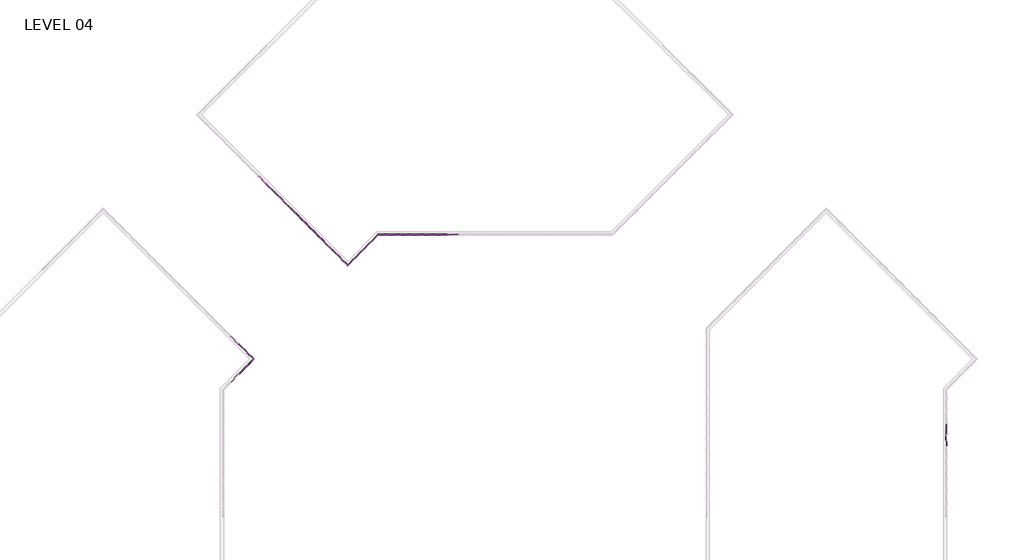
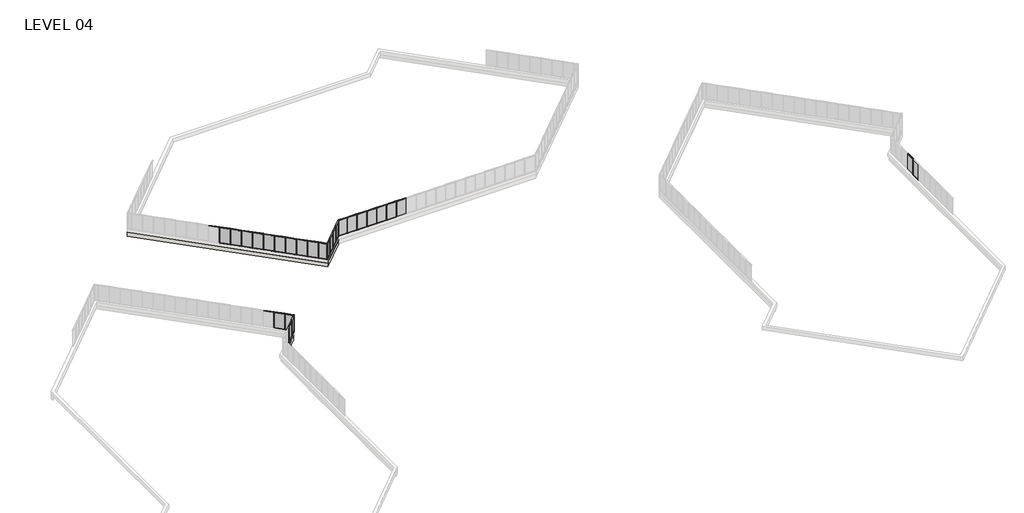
# One storey, part 12 of 17: 84 members, 27 plates, 3 walls.
"""IFC4 building model written with IfcOpenShell, lengths in millimetres."""

from ifc_helpers import new_model, si_unit, frame, origin, place, context, project, spatial, polyline, outline, extrude, faceted_brep, transform, mapped, element, save
from components import member_5247f267, member_e44af9ab, member_800970d4, member_45eb7f2e, member_910c08c9, member_dd9f6d43, plate_67294edd, plate_9c66726c, plate_88df3e37, plate_c3b8b83d, plate_129ab9d0, plate_6ecefdb5

model = new_model("IFC4")

# Units and contexts
model_context = context("Model", 3, world=origin())
ifc_project = project(units=[si_unit("LENGTHUNIT", "METRE", prefix="MILLI")], contexts=[model_context])

# Site, building, storey
site = spatial("IfcSite", under=ifc_project)
building = spatial("IfcBuilding", under=site)
storey = spatial("IfcBuildingStorey", under=building, Name="LEVEL 04", Elevation=12052.3)

# Members
placement = place(None, origin())
member_shape = member_5247f267(model_context)
element("IfcMember", 1, ObjectType="Rectangular Mullion : 2\" x 4.5\" rectangular", at=placement, inside=storey, context=model_context, shape_type="MappedRepresentation", body=[
    mapped(member_shape, transform((6200.5095063, 93365.536663, 12052.3), x_axis=(0.0, 0.0, -1.0), y_axis=(-0.7071067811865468, -0.7071067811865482, 0.0), z_axis=(-0.7071067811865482, 0.7071067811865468, 0.0))),
])
element("IfcMember", 2, ObjectType="Rectangular Mullion : 2\" x 4.5\" rectangular", at=placement, inside=storey, context=model_context, shape_type="MappedRepresentation", body=[
    mapped(member_shape, transform((7278.1402408, 92287.9059285, 12052.3), x_axis=(0.0, 0.0, -1.0), y_axis=(-0.7071067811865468, -0.7071067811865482, 0.0), z_axis=(-0.7071067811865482, 0.7071067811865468, 0.0))),
])
element("IfcMember", 3, ObjectType="Rectangular Mullion : 2\" x 4.5\" rectangular", at=placement, inside=storey, context=model_context, shape_type="MappedRepresentation", body=[
    mapped(member_shape, transform((8355.7709754, 91210.2751939, 12052.3), x_axis=(0.0, 0.0, -1.0), y_axis=(-0.7071067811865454, -0.7071067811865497, 0.0), z_axis=(-0.7071067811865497, 0.7071067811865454, 0.0))),
])
element("IfcMember", 4, ObjectType="Rectangular Mullion : 2\" x 4.5\" rectangular", at=placement, inside=storey, context=model_context, shape_type="MappedRepresentation", body=[
    mapped(member_shape, transform((9433.4017099, 90132.6444594, 12052.3), x_axis=(0.0, 0.0, -1.0), y_axis=(-0.7071067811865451, -0.7071067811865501, 0.0), z_axis=(-0.7071067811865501, 0.7071067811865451, 0.0))),
])
element("IfcMember", 5, ObjectType="Rectangular Mullion : 2\" x 4.5\" rectangular", at=placement, inside=storey, context=model_context, shape_type="MappedRepresentation", body=[
    mapped(member_shape, transform((10511.0324444, 89055.0137249, 12052.3), x_axis=(0.0, 0.0, -1.0), y_axis=(-0.7071067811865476, -0.7071067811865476, 0.0), z_axis=(-0.7071067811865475, 0.7071067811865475, 0.0))),
])
element("IfcMember", 6, ObjectType="Rectangular Mullion : 2\" x 4.5\" rectangular", at=placement, inside=storey, context=model_context, shape_type="MappedRepresentation", body=[
    mapped(member_shape, transform((11588.663179, 87977.3829903, 12052.3), x_axis=(0.0, 0.0, -1.0), y_axis=(-0.7071067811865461, -0.707106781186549, 0.0), z_axis=(-0.707106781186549, 0.7071067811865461, 0.0))),
])
element("IfcMember", 7, ObjectType="Rectangular Mullion : 2\" x 4.5\" rectangular", at=placement, inside=storey, context=model_context, shape_type="MappedRepresentation", body=[
    mapped(member_shape, transform((12666.2939135, 86899.7522558, 12052.3), x_axis=(0.0, 0.0, -1.0), y_axis=(-0.7071067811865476, -0.7071067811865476, 0.0), z_axis=(-0.7071067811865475, 0.7071067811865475, 0.0))),
])
element("IfcMember", 8, ObjectType="Rectangular Mullion : 2\" x 4.5\" rectangular", at=placement, inside=storey, context=model_context, shape_type="MappedRepresentation", body=[
    mapped(member_shape, transform((15463.8924855, 85858.0386548, 12052.3), x_axis=(0.0, 0.0, -1.0), y_axis=(0.7071067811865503, -0.7071067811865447, 0.0), z_axis=(-0.7071067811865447, -0.7071067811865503, 0.0))),
])
element("IfcMember", 9, ObjectType="Rectangular Mullion : 2\" x 4.5\" rectangular", at=placement, inside=storey, context=model_context, shape_type="MappedRepresentation", body=[
    mapped(member_shape, transform((16541.5232201, 86935.6693894, 12052.3), x_axis=(0.0, 0.0, -1.0), y_axis=(0.7071067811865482, -0.7071067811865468, 0.0), z_axis=(-0.7071067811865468, -0.7071067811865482, 0.0))),
])
element("IfcMember", 10, ObjectType="Rectangular Mullion : 2\" x 4.5\" rectangular", at=placement, inside=storey, context=model_context, shape_type="MappedRepresentation", body=[
    mapped(member_shape, transform((27514.55, 88955.8023049, 12052.3), x_axis=(0.0, 0.0, -1.0), y_axis=(0.0, 1.0, 0.0), z_axis=(1.0, 0.0, 0.0))),
])
element("IfcMember", 11, ObjectType="Rectangular Mullion : 2\" x 4.5\" rectangular", at=placement, inside=storey, context=model_context, shape_type="MappedRepresentation", body=[
    mapped(member_shape, transform((24466.55, 88955.8023049, 12052.3), x_axis=(0.0, 0.0, -1.0), y_axis=(0.0, 1.0, 0.0), z_axis=(1.0, 0.0, 0.0))),
])
element("IfcMember", 12, ObjectType="Rectangular Mullion : 2\" x 4.5\" rectangular", at=placement, inside=storey, context=model_context, shape_type="MappedRepresentation", body=[
    mapped(member_shape, transform((22942.55, 88955.8023049, 12052.3), x_axis=(0.0, 0.0, -1.0), y_axis=(0.0, 1.0, 0.0), z_axis=(1.0, 0.0, 0.0))),
])
element("IfcMember", 13, ObjectType="Rectangular Mullion : 2\" x 4.5\" rectangular", at=placement, inside=storey, context=model_context, shape_type="MappedRepresentation", body=[
    mapped(member_shape, transform((21418.55, 88955.8023049, 12052.3), x_axis=(0.0, 0.0, -1.0), y_axis=(0.0, 1.0, 0.0), z_axis=(1.0, 0.0, 0.0))),
])
element("IfcMember", 14, ObjectType="Rectangular Mullion : 2\" x 4.5\" rectangular", at=placement, inside=storey, context=model_context, shape_type="MappedRepresentation", body=[
    mapped(member_shape, transform((25990.55, 88955.8023049, 12052.3), x_axis=(0.0, 0.0, -1.0), y_axis=(0.0, 1.0, 0.0), z_axis=(1.0, 0.0, 0.0))),
])
element("IfcMember", 15, ObjectType="Rectangular Mullion : 2\" x 4.5\" rectangular", at=placement, inside=storey, context=model_context, shape_type="MappedRepresentation", body=[
    mapped(member_shape, transform((4009.6843581, 95556.3618112, 14643.1), x_axis=(0.0, 0.0, 1.0), y_axis=(-0.7071067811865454, -0.7071067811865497, 0.0), z_axis=(0.7071067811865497, -0.7071067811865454, 0.0))),
])
element("IfcMember", 16, ObjectType="Rectangular Mullion : 2\" x 4.5\" rectangular", at=placement, inside=storey, context=model_context, shape_type="MappedRepresentation", body=[
    mapped(member_shape, transform((7242.2192164, 92323.8269529, 14643.1), x_axis=(0.0, 0.0, 1.0), y_axis=(-0.7071067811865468, -0.7071067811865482, 0.0), z_axis=(0.7071067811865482, -0.7071067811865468, 0.0))),
])
element("IfcMember", 17, ObjectType="Rectangular Mullion : 2\" x 4.5\" rectangular", at=placement, inside=storey, context=model_context, shape_type="MappedRepresentation", body=[
    mapped(member_shape, transform((8319.8499509, 91246.1962184, 14643.1), x_axis=(0.0, 0.0, 1.0), y_axis=(-0.7071067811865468, -0.7071067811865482, 0.0), z_axis=(0.7071067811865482, -0.7071067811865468, 0.0))),
])
element("IfcMember", 18, ObjectType="Rectangular Mullion : 2\" x 4.5\" rectangular", at=placement, inside=storey, context=model_context, shape_type="MappedRepresentation", body=[
    mapped(member_shape, transform((9397.4806854, 90168.5654839, 14643.1), x_axis=(0.0, 0.0, 1.0), y_axis=(-0.7071067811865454, -0.7071067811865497, 0.0), z_axis=(0.7071067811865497, -0.7071067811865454, 0.0))),
])
element("IfcMember", 19, ObjectType="Rectangular Mullion : 2\" x 4.5\" rectangular", at=placement, inside=storey, context=model_context, shape_type="MappedRepresentation", body=[
    mapped(member_shape, transform((10475.1114199, 89090.9347494, 14643.1), x_axis=(0.0, 0.0, 1.0), y_axis=(-0.7071067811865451, -0.7071067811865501, 0.0), z_axis=(0.7071067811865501, -0.7071067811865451, 0.0))),
])
element("IfcMember", 20, ObjectType="Rectangular Mullion : 2\" x 4.5\" rectangular", at=placement, inside=storey, context=model_context, shape_type="MappedRepresentation", body=[
    mapped(member_shape, transform((11552.7421545, 88013.3040148, 14643.1), x_axis=(0.0, 0.0, 1.0), y_axis=(-0.7071067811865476, -0.7071067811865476, 0.0), z_axis=(0.7071067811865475, -0.7071067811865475, 0.0))),
])
element("IfcMember", 21, ObjectType="Rectangular Mullion : 2\" x 4.5\" rectangular", at=placement, inside=storey, context=model_context, shape_type="MappedRepresentation", body=[
    mapped(member_shape, transform((12630.372889, 86935.6732803, 14643.1), x_axis=(0.0, 0.0, 1.0), y_axis=(-0.7071067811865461, -0.707106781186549, 0.0), z_axis=(0.707106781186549, -0.7071067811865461, 0.0))),
])
element("IfcMember", 22, ObjectType="Rectangular Mullion : 2\" x 4.5\" rectangular", at=placement, inside=storey, context=model_context, shape_type="MappedRepresentation", body=[
    mapped(member_shape, transform((13708.0036235, 85858.0425458, 14643.1), x_axis=(0.0, 0.0, 1.0), y_axis=(-0.7071067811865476, -0.7071067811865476, 0.0), z_axis=(0.7071067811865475, -0.7071067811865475, 0.0))),
])
element("IfcMember", 23, ObjectType="Rectangular Mullion : 2\" x 4.5\" rectangular", at=placement, inside=storey, context=model_context, shape_type="MappedRepresentation", body=[
    mapped(member_shape, transform((17583.2329301, 87977.3790994, 14643.1), x_axis=(0.0, 0.0, 1.0), y_axis=(0.7071067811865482, -0.7071067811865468, 0.0), z_axis=(0.7071067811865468, 0.7071067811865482, 0.0))),
])
element("IfcMember", 24, ObjectType="Rectangular Mullion : 2\" x 4.5\" rectangular", at=placement, inside=storey, context=model_context, shape_type="MappedRepresentation", body=[
    mapped(member_shape, transform((16505.6021956, 86899.7483649, 14643.1), x_axis=(0.0, 0.0, 1.0), y_axis=(0.7071067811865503, -0.7071067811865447, 0.0), z_axis=(0.7071067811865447, 0.7071067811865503, 0.0))),
])
element("IfcMember", 25, ObjectType="Rectangular Mullion : 2\" x 4.5\" rectangular", at=placement, inside=storey, context=model_context, shape_type="MappedRepresentation", body=[
    mapped(member_shape, transform((27565.35, 88955.8023049, 14643.1), x_axis=(0.0, 0.0, 1.0), y_axis=(0.0, 1.0, 0.0), z_axis=(-1.0, 0.0, 0.0))),
])
element("IfcMember", 26, ObjectType="Rectangular Mullion : 2\" x 4.5\" rectangular", at=placement, inside=storey, context=model_context, shape_type="MappedRepresentation", body=[
    mapped(member_shape, transform((24517.35, 88955.8023049, 14643.1), x_axis=(0.0, 0.0, 1.0), y_axis=(0.0, 1.0, 0.0), z_axis=(-1.0, 0.0, 0.0))),
])
element("IfcMember", 27, ObjectType="Rectangular Mullion : 2\" x 4.5\" rectangular", at=placement, inside=storey, context=model_context, shape_type="MappedRepresentation", body=[
    mapped(member_shape, transform((22993.35, 88955.8023049, 14643.1), x_axis=(0.0, 0.0, 1.0), y_axis=(0.0, 1.0, 0.0), z_axis=(-1.0, 0.0, 0.0))),
])
element("IfcMember", 28, ObjectType="Rectangular Mullion : 2\" x 4.5\" rectangular", at=placement, inside=storey, context=model_context, shape_type="MappedRepresentation", body=[
    mapped(member_shape, transform((21469.35, 88955.8023049, 14643.1), x_axis=(0.0, 0.0, 1.0), y_axis=(0.0, 1.0, 0.0), z_axis=(-1.0, 0.0, 0.0))),
])
element("IfcMember", 29, ObjectType="Rectangular Mullion : 2\" x 4.5\" rectangular", at=placement, inside=storey, context=model_context, shape_type="MappedRepresentation", body=[
    mapped(member_shape, transform((19945.35, 88955.8023049, 14643.1), x_axis=(0.0, 0.0, 1.0), y_axis=(0.0, 1.0, 0.0), z_axis=(-1.0, 0.0, 0.0))),
])
element("IfcMember", 30, ObjectType="Rectangular Mullion : 2\" x 4.5\" rectangular", at=placement, inside=storey, context=model_context, shape_type="MappedRepresentation", body=[
    mapped(member_shape, transform((26041.35, 88955.8023049, 14643.1), x_axis=(0.0, 0.0, 1.0), y_axis=(0.0, 1.0, 0.0), z_axis=(-1.0, 0.0, 0.0))),
])
member_2_shape = member_e44af9ab(model_context)
element("IfcMember", 31, ObjectType="Rectangular Mullion : 2\" x 4.5\" rectangular", at=placement, inside=storey, context=model_context, shape_type="MappedRepresentation", body=[
    mapped(member_2_shape, transform((4027.6448703, 95538.401299, 12052.3), x_axis=(0.7071067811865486, -0.7071067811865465, 0.0), y_axis=(-0.7071067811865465, -0.7071067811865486, 0.0), z_axis=(0.0, 0.0, -1.0))),
])
element("IfcMember", 32, ObjectType="Rectangular Mullion : 2\" x 4.5\" rectangular", at=placement, inside=storey, context=model_context, shape_type="MappedRepresentation", body=[
    mapped(member_2_shape, transform((6182.5489941, 93383.4971752, 12052.3), x_axis=(0.7071067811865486, -0.7071067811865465, 0.0), y_axis=(-0.7071067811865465, -0.7071067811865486, 0.0), z_axis=(0.0, 0.0, -1.0))),
])
element("IfcMember", 33, ObjectType="Rectangular Mullion : 2\" x 4.5\" rectangular", at=placement, inside=storey, context=model_context, shape_type="MappedRepresentation", body=[
    mapped(member_2_shape, transform((7260.1797286, 92305.8664407, 12052.3), x_axis=(0.7071067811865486, -0.7071067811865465, 0.0), y_axis=(-0.7071067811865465, -0.7071067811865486, 0.0), z_axis=(0.0, 0.0, -1.0))),
])
element("IfcMember", 34, ObjectType="Rectangular Mullion : 2\" x 4.5\" rectangular", at=placement, inside=storey, context=model_context, shape_type="MappedRepresentation", body=[
    mapped(member_2_shape, transform((8337.8104631, 91228.2357062, 12052.3), x_axis=(0.7071067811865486, -0.7071067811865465, 0.0), y_axis=(-0.7071067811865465, -0.7071067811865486, 0.0), z_axis=(0.0, 0.0, -1.0))),
])
element("IfcMember", 35, ObjectType="Rectangular Mullion : 2\" x 4.5\" rectangular", at=placement, inside=storey, context=model_context, shape_type="MappedRepresentation", body=[
    mapped(member_2_shape, transform((5105.0969322, 94460.9492371, 12052.3), x_axis=(0.7071067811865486, -0.7071067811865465, 0.0), y_axis=(-0.7071067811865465, -0.7071067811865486, 0.0), z_axis=(0.0, 0.0, -1.0))),
])
element("IfcMember", 36, ObjectType="Rectangular Mullion : 2\" x 4.5\" rectangular", at=placement, inside=storey, context=model_context, shape_type="MappedRepresentation", body=[
    mapped(member_2_shape, transform((9415.4411977, 90150.6049716, 12052.3), x_axis=(0.7071067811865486, -0.7071067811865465, 0.0), y_axis=(-0.7071067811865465, -0.7071067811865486, 0.0), z_axis=(0.0, 0.0, -1.0))),
])
element("IfcMember", 37, ObjectType="Rectangular Mullion : 2\" x 4.5\" rectangular", at=placement, inside=storey, context=model_context, shape_type="MappedRepresentation", body=[
    mapped(member_2_shape, transform((10493.0719322, 89072.9742371, 12052.3), x_axis=(0.7071067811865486, -0.7071067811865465, 0.0), y_axis=(-0.7071067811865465, -0.7071067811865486, 0.0), z_axis=(0.0, 0.0, -1.0))),
])
element("IfcMember", 38, ObjectType="Rectangular Mullion : 2\" x 4.5\" rectangular", at=placement, inside=storey, context=model_context, shape_type="MappedRepresentation", body=[
    mapped(member_2_shape, transform((11570.7026667, 87995.3435026, 12052.3), x_axis=(0.7071067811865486, -0.7071067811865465, 0.0), y_axis=(-0.7071067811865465, -0.7071067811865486, 0.0), z_axis=(0.0, 0.0, -1.0))),
])
element("IfcMember", 39, ObjectType="Rectangular Mullion : 2\" x 4.5\" rectangular", at=placement, inside=storey, context=model_context, shape_type="MappedRepresentation", body=[
    mapped(member_2_shape, transform((12648.3334012, 86917.7127681, 12052.3), x_axis=(0.7071067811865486, -0.7071067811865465, 0.0), y_axis=(-0.7071067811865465, -0.7071067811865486, 0.0), z_axis=(0.0, 0.0, -1.0))),
])
element("IfcMember", 40, ObjectType="Rectangular Mullion : 2\" x 4.5\" rectangular", at=placement, inside=storey, context=model_context, shape_type="MappedRepresentation", body=[
    mapped(member_2_shape, transform((13725.9641358, 85840.0820335, 12052.3), x_axis=(0.7071067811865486, -0.7071067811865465, 0.0), y_axis=(-0.7071067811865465, -0.7071067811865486, 0.0), z_axis=(0.0, 0.0, -1.0))),
])
element("IfcMember", 41, ObjectType="Rectangular Mullion : 2\" x 4.5\" rectangular", at=placement, inside=storey, context=model_context, shape_type="MappedRepresentation", body=[
    mapped(member_2_shape, transform((15445.9319733, 85840.0781426, 12052.3), x_axis=(0.7071067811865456, 0.7071067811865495, 0.0), y_axis=(0.7071067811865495, -0.7071067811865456, 0.0), z_axis=(0.0, 0.0, -1.0))),
])
element("IfcMember", 42, ObjectType="Rectangular Mullion : 2\" x 4.5\" rectangular", at=placement, inside=storey, context=model_context, shape_type="MappedRepresentation", body=[
    mapped(member_2_shape, transform((17601.1934424, 87995.3396117, 12052.3), x_axis=(0.7071067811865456, 0.7071067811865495, 0.0), y_axis=(0.7071067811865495, -0.7071067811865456, 0.0), z_axis=(0.0, 0.0, -1.0))),
])
element("IfcMember", 43, ObjectType="Rectangular Mullion : 2\" x 4.5\" rectangular", at=placement, inside=storey, context=model_context, shape_type="MappedRepresentation", body=[
    mapped(member_2_shape, transform((16523.5627078, 86917.7088771, 12052.3), x_axis=(0.7071067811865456, 0.7071067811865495, 0.0), y_axis=(0.7071067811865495, -0.7071067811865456, 0.0), z_axis=(0.0, 0.0, -1.0))),
])
element("IfcMember", 44, ObjectType="Rectangular Mullion : 2\" x 4.5\" rectangular", at=placement, inside=storey, context=model_context, shape_type="MappedRepresentation", body=[
    mapped(member_2_shape, transform((27539.95, 88955.8023049, 12052.3), x_axis=(-1.0, 0.0, 0.0), y_axis=(0.0, 1.0, 0.0), z_axis=(0.0, 0.0, -1.0))),
])
element("IfcMember", 45, ObjectType="Rectangular Mullion : 2\" x 4.5\" rectangular", at=placement, inside=storey, context=model_context, shape_type="MappedRepresentation", body=[
    mapped(member_2_shape, transform((24491.95, 88955.8023049, 12052.3), x_axis=(-1.0, 0.0, 0.0), y_axis=(0.0, 1.0, 0.0), z_axis=(0.0, 0.0, -1.0))),
])
element("IfcMember", 46, ObjectType="Rectangular Mullion : 2\" x 4.5\" rectangular", at=placement, inside=storey, context=model_context, shape_type="MappedRepresentation", body=[
    mapped(member_2_shape, transform((22967.95, 88955.8023049, 12052.3), x_axis=(-1.0, 0.0, 0.0), y_axis=(0.0, 1.0, 0.0), z_axis=(0.0, 0.0, -1.0))),
])
element("IfcMember", 47, ObjectType="Rectangular Mullion : 2\" x 4.5\" rectangular", at=placement, inside=storey, context=model_context, shape_type="MappedRepresentation", body=[
    mapped(member_2_shape, transform((21443.95, 88955.8023049, 12052.3), x_axis=(-1.0, 0.0, 0.0), y_axis=(0.0, 1.0, 0.0), z_axis=(0.0, 0.0, -1.0))),
])
element("IfcMember", 48, ObjectType="Rectangular Mullion : 2\" x 4.5\" rectangular", at=placement, inside=storey, context=model_context, shape_type="MappedRepresentation", body=[
    mapped(member_2_shape, transform((19919.95, 88955.8023049, 12052.3), x_axis=(-1.0, 0.0, 0.0), y_axis=(0.0, 1.0, 0.0), z_axis=(0.0, 0.0, -1.0))),
])
element("IfcMember", 49, ObjectType="Rectangular Mullion : 2\" x 4.5\" rectangular", at=placement, inside=storey, context=model_context, shape_type="MappedRepresentation", body=[
    mapped(member_2_shape, transform((26015.95, 88955.8023049, 12052.3), x_axis=(-1.0, 0.0, 0.0), y_axis=(0.0, 1.0, 0.0), z_axis=(0.0, 0.0, -1.0))),
])
member_3_shape = member_800970d4(model_context)
element("IfcMember", 50, ObjectType="Rectangular Mullion : 2\" x 4.5\" rectangular", at=placement, inside=storey, context=model_context, shape_type="MappedRepresentation", body=[
    mapped(member_3_shape, transform((14585.95, 84980.0961693, 12052.3), x_axis=(0.7071067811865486, -0.7071067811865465, 0.0), y_axis=(-0.7071067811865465, -0.7071067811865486, 0.0), z_axis=(0.0, 0.0, -1.0))),
])
element("IfcMember", 51, ObjectType="Rectangular Mullion : 2\" x 4.5\" rectangular", at=placement, inside=storey, context=model_context, shape_type="MappedRepresentation", body=[
    mapped(member_3_shape, transform((18561.6561356, 88955.8023049, 12052.3), x_axis=(0.7071067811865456, 0.7071067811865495, 0.0), y_axis=(0.7071067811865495, -0.7071067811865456, 0.0), z_axis=(0.0, 0.0, -1.0))),
])
element("IfcMember", 52, ObjectType="Rectangular Mullion : 2\" x 4.5\" rectangular", at=placement, inside=storey, context=model_context, shape_type="MappedRepresentation", body=[
    mapped(member_3_shape, transform((18561.6561356, 88955.8023049, 12052.3), x_axis=(-1.0, 0.0, 0.0), y_axis=(0.0, 1.0, 0.0), z_axis=(0.0, 0.0, -1.0))),
])
element("IfcMember", 53, ObjectType="Rectangular Mullion : 2\" x 4.5\" rectangular", at=placement, inside=storey, context=model_context, shape_type="MappedRepresentation", body=[
    mapped(member_3_shape, transform((14585.95, 84980.0961693, 14643.1), x_axis=(-0.7071067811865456, -0.7071067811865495, 0.0), y_axis=(0.7071067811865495, -0.7071067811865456, 0.0), z_axis=(0.0, 0.0, 1.0))),
])
member_4_shape = member_45eb7f2e(model_context)
element("IfcMember", 54, ObjectType="Rectangular Mullion : 2\" x 4.5\" rectangular", at=placement, inside=storey, context=model_context, shape_type="MappedRepresentation", body=[
    mapped(member_4_shape, transform((18525.7351111, 88919.8812804, 14643.1), x_axis=(0.0, 0.0, 1.0), y_axis=(0.7071067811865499, -0.7071067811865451, 0.0), z_axis=(0.7071067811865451, 0.7071067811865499, 0.0))),
])
element("IfcMember", 55, ObjectType="Rectangular Mullion : 2\" x 4.5\" rectangular", at=placement, inside=storey, context=model_context, shape_type="MappedRepresentation", body=[
    mapped(member_4_shape, transform((18612.4561356, 88955.8023049, 14643.1), x_axis=(0.0, 0.0, 1.0), y_axis=(0.0, 1.0, 0.0), z_axis=(-1.0, 0.0, 0.0))),
])
element("IfcMember", 56, ObjectType="Rectangular Mullion : 2\" x 4.5\" rectangular", at=placement, inside=storey, context=model_context, shape_type="MappedRepresentation", body=[
    mapped(member_4_shape, transform((17619.1539546, 88013.3001239, 12052.3), x_axis=(0.0, 0.0, -1.0), y_axis=(0.7071067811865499, -0.7071067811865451, 0.0), z_axis=(-0.7071067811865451, -0.7071067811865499, 0.0))),
])
element("IfcMember", 57, ObjectType="Rectangular Mullion : 2\" x 4.5\" rectangular", at=placement, inside=storey, context=model_context, shape_type="MappedRepresentation", body=[
    mapped(member_4_shape, transform((19894.55, 88955.8023049, 12052.3), x_axis=(0.0, 0.0, -1.0), y_axis=(0.0, 1.0, 0.0), z_axis=(1.0, 0.0, 0.0))),
])
member_5_shape = member_910c08c9(model_context)
element("IfcMember", 58, ObjectType="Rectangular Mullion : 2\" x 4.5\" rectangular", at=placement, inside=storey, context=model_context, shape_type="MappedRepresentation", body=[
    mapped(member_5_shape, transform((6164.5884818, 93401.4576875, 14643.1), x_axis=(0.0, 0.0, 1.0), y_axis=(-0.7071067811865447, -0.7071067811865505, 0.0), z_axis=(0.7071067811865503, -0.7071067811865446, 0.0))),
])
element("IfcMember", 59, ObjectType="Rectangular Mullion : 2\" x 4.5\" rectangular", at=placement, inside=storey, context=model_context, shape_type="MappedRepresentation", body=[
    mapped(member_5_shape, transform((5087.1364199, 94478.9097494, 14643.1), x_axis=(0.0, 0.0, 1.0), y_axis=(-0.7071067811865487, -0.7071067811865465, 0.0), z_axis=(0.7071067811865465, -0.7071067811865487, 0.0))),
])
element("IfcMember", 60, ObjectType="Rectangular Mullion : 2\" x 4.5\" rectangular", at=placement, inside=storey, context=model_context, shape_type="MappedRepresentation", body=[
    mapped(member_5_shape, transform((4045.6053825, 95520.4407868, 12052.3), x_axis=(0.0, 0.0, -1.0), y_axis=(-0.7071067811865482, -0.7071067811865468, 0.0), z_axis=(-0.7071067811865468, 0.7071067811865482, 0.0))),
])
element("IfcMember", 61, ObjectType="Rectangular Mullion : 2\" x 4.5\" rectangular", at=placement, inside=storey, context=model_context, shape_type="MappedRepresentation", body=[
    mapped(member_5_shape, transform((5123.0574444, 94442.9887249, 12052.3), x_axis=(0.0, 0.0, -1.0), y_axis=(-0.7071067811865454, -0.7071067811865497, 0.0), z_axis=(-0.7071067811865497, 0.7071067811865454, 0.0))),
])
member_6_shape = member_dd9f6d43(model_context)
element("IfcMember", 62, ObjectType="Rectangular Mullion : 2\" x 4.5\" rectangular", at=placement, inside=storey, context=model_context, shape_type="MappedRepresentation", body=[
    mapped(member_6_shape, transform((14550.0289755, 85016.0171938, 14643.1), x_axis=(0.0, 0.0, 1.0), y_axis=(-0.7071067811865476, -0.7071067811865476, 0.0), z_axis=(0.7071067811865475, -0.7071067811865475, 0.0))),
])
element("IfcMember", 63, ObjectType="Rectangular Mullion : 2\" x 4.5\" rectangular", at=placement, inside=storey, context=model_context, shape_type="MappedRepresentation", body=[
    mapped(member_6_shape, transform((15427.9714611, 85822.1176304, 14643.1), x_axis=(0.0, 0.0, 1.0), y_axis=(0.7071067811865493, -0.7071067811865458, 0.0), z_axis=(0.7071067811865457, 0.7071067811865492, 0.0))),
])
element("IfcMember", 64, ObjectType="Rectangular Mullion : 2\" x 4.5\" rectangular", at=placement, inside=storey, context=model_context, shape_type="MappedRepresentation", body=[
    mapped(member_6_shape, transform((13743.924648, 85822.1215213, 12052.3), x_axis=(0.0, 0.0, -1.0), y_axis=(-0.7071067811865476, -0.7071067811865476, 0.0), z_axis=(-0.7071067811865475, 0.7071067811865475, 0.0))),
])
element("IfcMember", 65, ObjectType="Rectangular Mullion : 2\" x 4.5\" rectangular", at=placement, inside=storey, context=model_context, shape_type="MappedRepresentation", body=[
    mapped(member_6_shape, transform((14621.8710245, 85016.0171938, 12052.3), x_axis=(0.0, 0.0, -1.0), y_axis=(0.7071067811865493, -0.7071067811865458, 0.0), z_axis=(-0.7071067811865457, -0.7071067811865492, 0.0))),
])
element("IfcMember", 66, ObjectType="Rectangular Mullion : 2\" x 4.5\" rectangular", at=placement, inside=storey, context=model_context, shape_type="MappedRepresentation", body=[
    mapped(member_shape, transform((92435.9347164, 62877.3675885, 14643.1), x_axis=(0.0, 0.0, 1.0), y_axis=(-1.0, 0.0, 0.0), z_axis=(0.0, -1.0, 0.0))),
])
element("IfcMember", 67, ObjectType="Rectangular Mullion : 2\" x 4.5\" rectangular", at=placement, inside=storey, context=model_context, shape_type="MappedRepresentation", body=[
    mapped(member_shape, transform((408.2443082, 74713.5446995, 14643.1), x_axis=(0.0, 0.0, 1.0), y_axis=(-0.7071067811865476, -0.7071067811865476, 0.0), z_axis=(0.7071067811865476, -0.7071067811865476, 0.0))),
])
element("IfcMember", 68, ObjectType="Rectangular Mullion : 2\" x 4.5\" rectangular", at=placement, inside=storey, context=model_context, shape_type="MappedRepresentation", body=[
    mapped(member_shape, transform((1485.8750428, 73635.913965, 14643.1), x_axis=(0.0, 0.0, 1.0), y_axis=(-0.7071067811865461, -0.707106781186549, 0.0), z_axis=(0.707106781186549, -0.7071067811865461, 0.0))),
])
element("IfcMember", 69, ObjectType="Rectangular Mullion : 2\" x 4.5\" rectangular", at=placement, inside=storey, context=model_context, shape_type="MappedRepresentation", body=[
    mapped(member_shape, transform((444.1692236, 70838.3153929, 14643.1), x_axis=(0.0, 0.0, 1.0), y_axis=(-0.7071067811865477, 0.7071067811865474, 0.0), z_axis=(-0.7071067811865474, -0.7071067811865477, 0.0))),
])
element("IfcMember", 70, ObjectType="Rectangular Mullion : 2\" x 4.5\" rectangular", at=placement, inside=storey, context=model_context, shape_type="MappedRepresentation", body=[
    mapped(member_shape, transform((92435.9347164, 62826.5675885, 12052.3), x_axis=(0.0, 0.0, -1.0), y_axis=(-1.0, 0.0, 0.0), z_axis=(0.0, 1.0, 0.0))),
])
element("IfcMember", 71, ObjectType="Rectangular Mullion : 2\" x 4.5\" rectangular", at=placement, inside=storey, context=model_context, shape_type="MappedRepresentation", body=[
    mapped(member_shape, transform((444.1653327, 74677.623675, 12052.3), x_axis=(0.0, 0.0, -1.0), y_axis=(-0.7071067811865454, -0.7071067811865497, 0.0), z_axis=(-0.7071067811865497, 0.7071067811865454, 0.0))),
])
element("IfcMember", 72, ObjectType="Rectangular Mullion : 2\" x 4.5\" rectangular", at=placement, inside=storey, context=model_context, shape_type="MappedRepresentation", body=[
    mapped(member_shape, transform((1485.8789337, 71880.025103, 12052.3), x_axis=(0.0, 0.0, -1.0), y_axis=(-0.7071067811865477, 0.7071067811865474, 0.0), z_axis=(0.7071067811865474, 0.7071067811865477, 0.0))),
])
element("IfcMember", 73, ObjectType="Rectangular Mullion : 2\" x 4.5\" rectangular", at=placement, inside=storey, context=model_context, shape_type="MappedRepresentation", body=[
    mapped(member_shape, transform((408.2481992, 70802.3943684, 12052.3), x_axis=(0.0, 0.0, -1.0), y_axis=(-0.7071067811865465, 0.7071067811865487, 0.0), z_axis=(0.7071067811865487, 0.7071067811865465, 0.0))),
])
element("IfcMember", 74, ObjectType="Rectangular Mullion : 2\" x 4.5\" rectangular", at=placement, inside=storey, context=model_context, shape_type="MappedRepresentation", body=[
    mapped(member_2_shape, transform((92435.9347164, 62851.9675885, 12052.3), x_axis=(0.0, -1.0, 0.0), y_axis=(-1.0, 0.0, 0.0), z_axis=(0.0, 0.0, -1.0))),
])
element("IfcMember", 75, ObjectType="Rectangular Mullion : 2\" x 4.5\" rectangular", at=placement, inside=storey, context=model_context, shape_type="MappedRepresentation", body=[
    mapped(member_2_shape, transform((426.2048205, 74695.5841873, 12052.3), x_axis=(0.707106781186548, -0.7071067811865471, 0.0), y_axis=(-0.7071067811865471, -0.707106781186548, 0.0), z_axis=(0.0, 0.0, -1.0))),
])
element("IfcMember", 76, ObjectType="Rectangular Mullion : 2\" x 4.5\" rectangular", at=placement, inside=storey, context=model_context, shape_type="MappedRepresentation", body=[
    mapped(member_2_shape, transform((1503.835555, 73617.9534527, 12052.3), x_axis=(0.707106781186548, -0.7071067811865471, 0.0), y_axis=(-0.7071067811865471, -0.707106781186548, 0.0), z_axis=(0.0, 0.0, -1.0))),
])
element("IfcMember", 77, ObjectType="Rectangular Mullion : 2\" x 4.5\" rectangular", at=placement, inside=storey, context=model_context, shape_type="MappedRepresentation", body=[
    mapped(member_2_shape, transform((1503.8394459, 71897.9856152, 12052.3), x_axis=(-0.707106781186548, -0.7071067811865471, 0.0), y_axis=(-0.7071067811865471, 0.707106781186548, 0.0), z_axis=(0.0, 0.0, -1.0))),
])
element("IfcMember", 78, ObjectType="Rectangular Mullion : 2\" x 4.5\" rectangular", at=placement, inside=storey, context=model_context, shape_type="MappedRepresentation", body=[
    mapped(member_2_shape, transform((426.2087114, 70820.3548807, 12052.3), x_axis=(-0.707106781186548, -0.7071067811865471, 0.0), y_axis=(-0.7071067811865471, 0.707106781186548, 0.0), z_axis=(0.0, 0.0, -1.0))),
])
element("IfcMember", 79, ObjectType="Rectangular Mullion : 2\" x 4.5\" rectangular", at=placement, inside=storey, context=model_context, shape_type="MappedRepresentation", body=[
    mapped(member_3_shape, transform((2363.8214192, 72757.9675885, 12052.3), x_axis=(0.707106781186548, -0.7071067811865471, 0.0), y_axis=(-0.7071067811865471, -0.707106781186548, 0.0), z_axis=(0.0, 0.0, -1.0))),
])
element("IfcMember", 80, ObjectType="Rectangular Mullion : 2\" x 4.5\" rectangular", at=placement, inside=storey, context=model_context, shape_type="MappedRepresentation", body=[
    mapped(member_3_shape, transform((2363.8214192, 72757.9675885, 14643.1), x_axis=(0.707106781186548, 0.7071067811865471, 0.0), y_axis=(-0.7071067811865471, 0.707106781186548, 0.0), z_axis=(0.0, 0.0, 1.0))),
])
element("IfcMember", 81, ObjectType="Rectangular Mullion : 2\" x 4.5\" rectangular", at=placement, inside=storey, context=model_context, shape_type="MappedRepresentation", body=[
    mapped(member_6_shape, transform((2327.9003947, 72793.888613, 14643.1), x_axis=(0.0, 0.0, 1.0), y_axis=(-0.7071067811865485, -0.7071067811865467, 0.0), z_axis=(0.7071067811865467, -0.7071067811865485, 0.0))),
])
element("IfcMember", 82, ObjectType="Rectangular Mullion : 2\" x 4.5\" rectangular", at=placement, inside=storey, context=model_context, shape_type="MappedRepresentation", body=[
    mapped(member_6_shape, transform((1521.7999582, 71915.9461275, 14643.1), x_axis=(0.0, 0.0, 1.0), y_axis=(-0.7071067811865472, 0.7071067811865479, 0.0), z_axis=(-0.7071067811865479, -0.7071067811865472, 0.0))),
])
element("IfcMember", 83, ObjectType="Rectangular Mullion : 2\" x 4.5\" rectangular", at=placement, inside=storey, context=model_context, shape_type="MappedRepresentation", body=[
    mapped(member_6_shape, transform((1521.7960672, 73599.9929405, 12052.3), x_axis=(0.0, 0.0, -1.0), y_axis=(-0.7071067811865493, -0.7071067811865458, 0.0), z_axis=(-0.7071067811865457, 0.7071067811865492, 0.0))),
])
element("IfcMember", 84, ObjectType="Rectangular Mullion : 2\" x 4.5\" rectangular", at=placement, inside=storey, context=model_context, shape_type="MappedRepresentation", body=[
    mapped(member_6_shape, transform((2327.9003947, 72722.046564, 12052.3), x_axis=(0.0, 0.0, -1.0), y_axis=(-0.7071067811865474, 0.7071067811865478, 0.0), z_axis=(0.7071067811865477, 0.7071067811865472, 0.0))),
])

# Plates
plate_shape = plate_67294edd(model_context)
element("IfcPlate", 85, ObjectType="System Panel : 1/4\" Glass", at=placement, inside=storey, context=model_context, shape_type="MappedRepresentation", body=[
    mapped(plate_shape, transform((6721.3643613, 92844.681808, 12103.1), x_axis=(0.7071067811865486, -0.7071067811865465, 0.0), y_axis=(0.7071067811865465, 0.7071067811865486, 0.0), z_axis=(0.0, 0.0, 1.0))),
])
element("IfcPlate", 86, ObjectType="System Panel : 1/4\" Glass", at=placement, inside=storey, context=model_context, shape_type="MappedRepresentation", body=[
    mapped(plate_shape, transform((7798.9950959, 91767.0510734, 12103.1), x_axis=(0.7071067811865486, -0.7071067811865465, 0.0), y_axis=(0.7071067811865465, 0.7071067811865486, 0.0), z_axis=(0.0, 0.0, 1.0))),
])
element("IfcPlate", 87, ObjectType="System Panel : 1/4\" Glass", at=placement, inside=storey, context=model_context, shape_type="MappedRepresentation", body=[
    mapped(plate_shape, transform((8876.6258304, 90689.4203389, 12103.1), x_axis=(0.7071067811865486, -0.7071067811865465, 0.0), y_axis=(0.7071067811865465, 0.7071067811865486, 0.0), z_axis=(0.0, 0.0, 1.0))),
])
element("IfcPlate", 88, ObjectType="System Panel : 1/4\" Glass", at=placement, inside=storey, context=model_context, shape_type="MappedRepresentation", body=[
    mapped(plate_shape, transform((9954.2565649, 89611.7896044, 12103.1), x_axis=(0.7071067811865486, -0.7071067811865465, 0.0), y_axis=(0.7071067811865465, 0.7071067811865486, 0.0), z_axis=(0.0, 0.0, 1.0))),
])
element("IfcPlate", 89, ObjectType="System Panel : 1/4\" Glass", at=placement, inside=storey, context=model_context, shape_type="MappedRepresentation", body=[
    mapped(plate_shape, transform((11031.8872995, 88534.1588698, 12103.1), x_axis=(0.7071067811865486, -0.7071067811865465, 0.0), y_axis=(0.7071067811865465, 0.7071067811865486, 0.0), z_axis=(0.0, 0.0, 1.0))),
])
element("IfcPlate", 90, ObjectType="System Panel : 1/4\" Glass", at=placement, inside=storey, context=model_context, shape_type="MappedRepresentation", body=[
    mapped(plate_shape, transform((12109.518034, 87456.5281353, 12103.1), x_axis=(0.7071067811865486, -0.7071067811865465, 0.0), y_axis=(0.7071067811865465, 0.7071067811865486, 0.0), z_axis=(0.0, 0.0, 1.0))),
])
element("IfcPlate", 91, ObjectType="System Panel : 1/4\" Glass", at=placement, inside=storey, context=model_context, shape_type="MappedRepresentation", body=[
    mapped(plate_shape, transform((13187.1487685, 86378.8974008, 12103.1), x_axis=(0.7071067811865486, -0.7071067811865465, 0.0), y_axis=(0.7071067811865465, 0.7071067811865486, 0.0), z_axis=(0.0, 0.0, 1.0))),
])
element("IfcPlate", 92, ObjectType="System Panel : 1/4\" Glass", at=placement, inside=storey, context=model_context, shape_type="MappedRepresentation", body=[
    mapped(plate_shape, transform((15984.7473406, 86378.8935099, 12103.1), x_axis=(0.7071067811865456, 0.7071067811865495, 0.0), y_axis=(-0.7071067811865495, 0.7071067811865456, 0.0), z_axis=(0.0, 0.0, 1.0))),
])
element("IfcPlate", 93, ObjectType="System Panel : 1/4\" Glass", at=placement, inside=storey, context=model_context, shape_type="MappedRepresentation", body=[
    mapped(plate_shape, transform((17062.3780751, 87456.5242444, 12103.1), x_axis=(0.7071067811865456, 0.7071067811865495, 0.0), y_axis=(-0.7071067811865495, 0.7071067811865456, 0.0), z_axis=(0.0, 0.0, 1.0))),
])
element("IfcPlate", 94, ObjectType="System Panel : 1/4\" Glass", at=placement, inside=storey, context=model_context, shape_type="MappedRepresentation", body=[
    mapped(plate_shape, transform((28301.95, 88955.8023049, 12103.1), x_axis=(-1.0, 0.0, 0.0), y_axis=(0.0, -1.0, 0.0), z_axis=(0.0, 0.0, 1.0))),
])
element("IfcPlate", 95, ObjectType="System Panel : 1/4\" Glass", at=placement, inside=storey, context=model_context, shape_type="MappedRepresentation", body=[
    mapped(plate_shape, transform((26777.95, 88955.8023049, 12103.1), x_axis=(-1.0, 0.0, 0.0), y_axis=(0.0, -1.0, 0.0), z_axis=(0.0, 0.0, 1.0))),
])
element("IfcPlate", 96, ObjectType="System Panel : 1/4\" Glass", at=placement, inside=storey, context=model_context, shape_type="MappedRepresentation", body=[
    mapped(plate_shape, transform((23729.95, 88955.8023049, 12103.1), x_axis=(-1.0, 0.0, 0.0), y_axis=(0.0, -1.0, 0.0), z_axis=(0.0, 0.0, 1.0))),
])
element("IfcPlate", 97, ObjectType="System Panel : 1/4\" Glass", at=placement, inside=storey, context=model_context, shape_type="MappedRepresentation", body=[
    mapped(plate_shape, transform((22205.95, 88955.8023049, 12103.1), x_axis=(-1.0, 0.0, 0.0), y_axis=(0.0, -1.0, 0.0), z_axis=(0.0, 0.0, 1.0))),
])
element("IfcPlate", 98, ObjectType="System Panel : 1/4\" Glass", at=placement, inside=storey, context=model_context, shape_type="MappedRepresentation", body=[
    mapped(plate_shape, transform((20681.95, 88955.8023049, 12103.1), x_axis=(-1.0, 0.0, 0.0), y_axis=(0.0, -1.0, 0.0), z_axis=(0.0, 0.0, 1.0))),
])
element("IfcPlate", 99, ObjectType="System Panel : 1/4\" Glass", at=placement, inside=storey, context=model_context, shape_type="MappedRepresentation", body=[
    mapped(plate_shape, transform((25253.95, 88955.8023049, 12103.1), x_axis=(-1.0, 0.0, 0.0), y_axis=(0.0, -1.0, 0.0), z_axis=(0.0, 0.0, 1.0))),
])
plate_2_shape = plate_9c66726c(model_context)
element("IfcPlate", 100, ObjectType="System Panel : 1/4\" Glass", at=placement, inside=storey, context=model_context, shape_type="MappedRepresentation", body=[
    mapped(plate_2_shape, transform((19253.5030678, 88955.8023049, 12103.1), x_axis=(-1.0, 0.0, 0.0), y_axis=(0.0, -1.0, 0.0), z_axis=(0.0, 0.0, 1.0))),
])
plate_3_shape = plate_88df3e37(model_context)
element("IfcPlate", 101, ObjectType="System Panel : 1/4\" Glass", at=placement, inside=storey, context=model_context, shape_type="MappedRepresentation", body=[
    mapped(plate_3_shape, transform((4566.3709012, 94999.6752681, 12103.1), x_axis=(0.7071067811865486, -0.7071067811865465, 0.0), y_axis=(0.7071067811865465, 0.7071067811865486, 0.0), z_axis=(0.0, 0.0, 1.0))),
])
element("IfcPlate", 102, ObjectType="System Panel : 1/4\" Glass", at=placement, inside=storey, context=model_context, shape_type="MappedRepresentation", body=[
    mapped(plate_3_shape, transform((5643.8229631, 93922.2232062, 12103.1), x_axis=(0.7071067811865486, -0.7071067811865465, 0.0), y_axis=(0.7071067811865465, 0.7071067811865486, 0.0), z_axis=(0.0, 0.0, 1.0))),
])
plate_4_shape = plate_c3b8b83d(model_context)
element("IfcPlate", 103, ObjectType="System Panel : 1/4\" Glass", at=placement, inside=storey, context=model_context, shape_type="MappedRepresentation", body=[
    mapped(plate_4_shape, transform((14146.9768118, 85419.0693575, 12103.1), x_axis=(0.7071067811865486, -0.7071067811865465, 0.0), y_axis=(0.7071067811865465, 0.7071067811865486, 0.0), z_axis=(0.0, 0.0, 1.0))),
])
plate_5_shape = plate_129ab9d0(model_context)
element("IfcPlate", 104, ObjectType="System Panel : 1/4\" Glass", at=placement, inside=storey, context=model_context, shape_type="MappedRepresentation", body=[
    mapped(plate_5_shape, transform((18072.4445329, 88466.5907022, 12103.1), x_axis=(0.7071067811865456, 0.7071067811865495, 0.0), y_axis=(-0.7071067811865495, 0.7071067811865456, 0.0), z_axis=(0.0, 0.0, 1.0))),
])
plate_6_shape = plate_6ecefdb5(model_context)
element("IfcPlate", 105, ObjectType="System Panel : 1/4\" Glass", at=placement, inside=storey, context=model_context, shape_type="MappedRepresentation", body=[
    mapped(plate_6_shape, transform((15024.9212428, 85419.0674121, 12103.1), x_axis=(0.7071067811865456, 0.7071067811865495, 0.0), y_axis=(-0.7071067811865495, 0.7071067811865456, 0.0), z_axis=(0.0, 0.0, 1.0))),
])
element("IfcPlate", 106, ObjectType="System Panel : 1/4\" Glass", at=placement, inside=storey, context=model_context, shape_type="MappedRepresentation", body=[
    mapped(plate_shape, transform((92435.9347164, 63613.9675885, 12103.1), x_axis=(0.0, -1.0, 0.0), y_axis=(1.0, 0.0, 0.0), z_axis=(0.0, 0.0, 1.0))),
])
element("IfcPlate", 107, ObjectType="System Panel : 1/4\" Glass", at=placement, inside=storey, context=model_context, shape_type="MappedRepresentation", body=[
    mapped(plate_shape, transform((92435.9347164, 62089.9675885, 12103.1), x_axis=(0.0, -1.0, 0.0), y_axis=(1.0, 0.0, 0.0), z_axis=(0.0, 0.0, 1.0))),
])
element("IfcPlate", 108, ObjectType="System Panel : 1/4\" Glass", at=placement, inside=storey, context=model_context, shape_type="MappedRepresentation", body=[
    mapped(plate_shape, transform((965.0201877, 74156.76882, 12103.1), x_axis=(0.707106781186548, -0.7071067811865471, 0.0), y_axis=(0.7071067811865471, 0.707106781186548, 0.0), z_axis=(0.0, 0.0, 1.0))),
])
element("IfcPlate", 109, ObjectType="System Panel : 1/4\" Glass", at=placement, inside=storey, context=model_context, shape_type="MappedRepresentation", body=[
    mapped(plate_shape, transform((965.0240787, 71359.170248, 12103.1), x_axis=(-0.707106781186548, -0.7071067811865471, 0.0), y_axis=(0.7071067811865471, -0.707106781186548, 0.0), z_axis=(0.0, 0.0, 1.0))),
])
element("IfcPlate", 110, ObjectType="System Panel : 1/4\" Glass", at=placement, inside=storey, context=model_context, shape_type="MappedRepresentation", body=[
    mapped(plate_6_shape, transform((1924.8501765, 72318.9963457, 12103.1), x_axis=(-0.707106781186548, -0.7071067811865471, 0.0), y_axis=(0.7071067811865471, -0.707106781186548, 0.0), z_axis=(0.0, 0.0, 1.0))),
])
element("IfcPlate", 111, ObjectType="System Panel : 1/4\" Glass", at=placement, inside=storey, context=model_context, shape_type="MappedRepresentation", body=[
    mapped(plate_4_shape, transform((1924.848231, 73196.9407768, 12103.1), x_axis=(0.707106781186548, -0.7071067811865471, 0.0), y_axis=(0.7071067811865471, 0.707106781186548, 0.0), z_axis=(0.0, 0.0, 1.0))),
])

# Walls
element("IfcWall", 112, ObjectType="01-CONCRETE-12", at=placement, inside=storey, context=model_context, shape_type="Brep", body=[
    faceted_brep([(14801.4761469, 85114.8000111, 10871.2), (14585.95, 85330.326158, 10871.2), (-4625.6011469, 104541.8773049, 10871.2), (-4841.1272938, 104757.4034518, 10871.2), (-4841.1272938, 104757.4034518, 11493.5), (-4625.6011469, 104541.8773049, 11493.5), (14585.95, 85330.326158, 11493.5), (14801.4761469, 85114.8000111, 11493.5), (14585.95, 84899.2738642, 10871.2), (14585.95, 84899.2738642, 11493.5), (-5056.6534407, 104541.8773049, 11493.5), (-5056.6534407, 104541.8773049, 10871.2)], [[[0, 1, 2, 3, 4, 5, 6, 7]], [[8, 9, 10, 11]], [[3, 2, 1, 0, 8, 11]], [[7, 6, 5, 4, 10, 9]], [[0, 7, 9, 8]], [[4, 3, 11, 10]]]),
])
element("IfcWall", 113, ObjectType="01-CONCRETE-12", at=placement, inside=storey, context=model_context, shape_type="SweptSolid", body=[
    extrude(outline(polyline([(14585.95, 85330.326158), (18154.2761469, 88898.6523049), (18585.3284407, 88898.6523049), (14801.4761469, 85114.8000111), (14585.95, 85330.326158)])), frame((0.0, 0.0, 10871.2), z_axis=(0.0, 0.0, 1.0), x_axis=(1.0, 0.0, 0.0)), (0.0, 0.0, 1.0), 622.3),
])
element("IfcWall", 114, ObjectType="01-CONCRETE-12", at=placement, inside=storey, context=model_context, shape_type="SweptSolid", body=[
    extrude(outline(polyline([(2229.1175774, 72542.4414416), (-1554.7347164, 68758.5891478), (-1554.7347164, 69189.6414416), (2013.5914305, 72757.9675885), (2229.1175774, 72542.4414416)])), frame((0.0, 0.0, 10871.2), z_axis=(0.0, 0.0, 1.0), x_axis=(1.0, 0.0, 0.0)), (0.0, 0.0, 1.0), 622.3),
])

save(model, "model.ifc")
